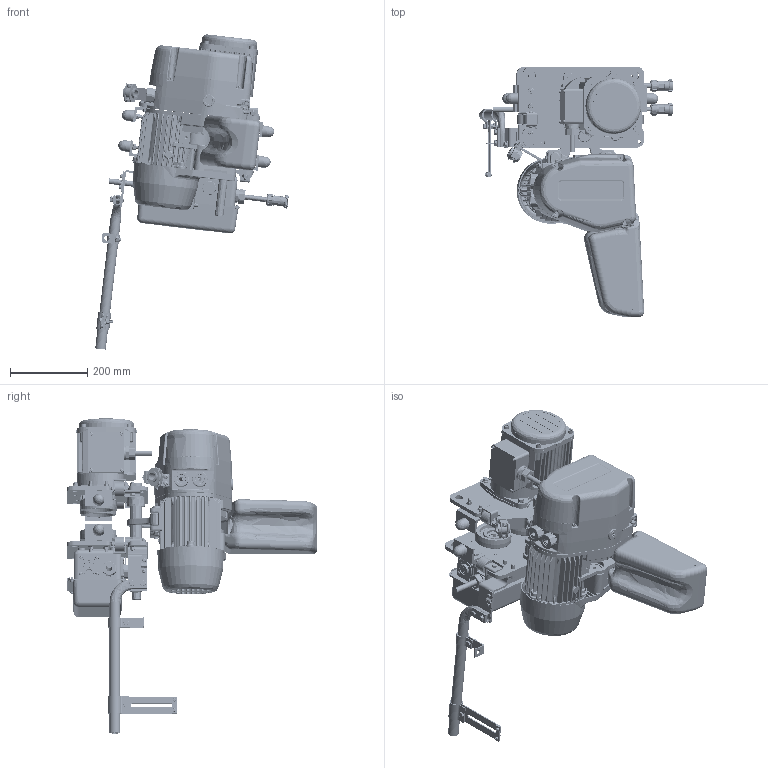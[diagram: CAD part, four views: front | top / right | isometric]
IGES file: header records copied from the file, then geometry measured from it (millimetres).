
Start section: SolidWorks IGES file using analytic representation for surfaces
Global section: file name: G:\SolidWorks\EQ\EQ003\EQM003.IGS; native system: SolidWorks 2022; preprocessor: SolidWorks 2022; author: whiteca; date: 230302.162817; units: millimetre
Bounding box: 501.22 x 649.48 x 816.28 mm (x, y, z)
Surface area: 3385497.4 mm2 (no closed solid volume)
Topology: 0 solids, 0 shells, 15688 faces, 193269 edges, 193048 vertices
Faces by surface type: bspline 8134, revolution 7554
